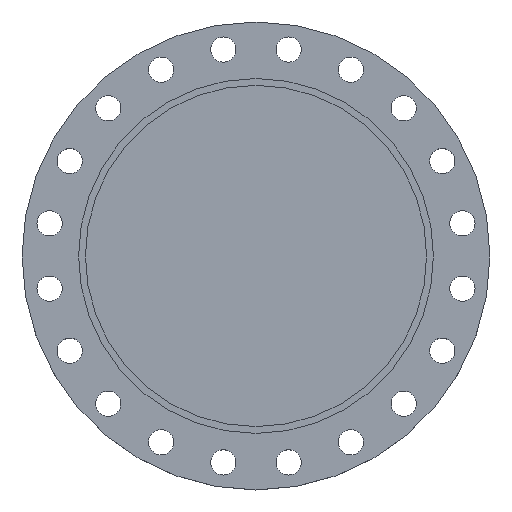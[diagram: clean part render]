
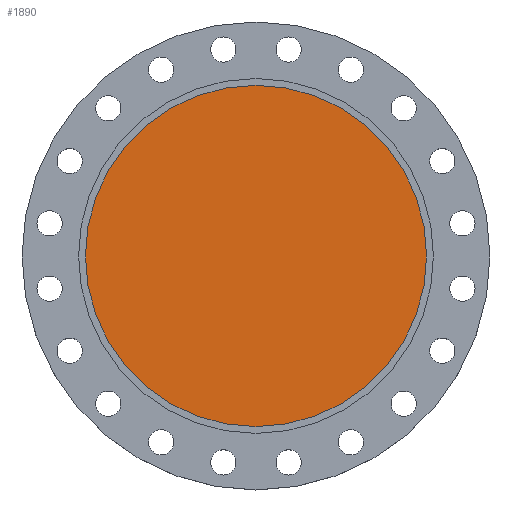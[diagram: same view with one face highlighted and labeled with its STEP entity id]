
A CAD part, top view. The second image highlights one B-rep face of the part: STEP entity #1890.
In plain terms, the highlighted planar face has unit normal (0, 0, 1).
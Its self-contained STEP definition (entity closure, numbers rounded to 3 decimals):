
#40 = DIRECTION ( 'NONE',  ( 1., 0., 0. ) ) ;
#41 = DIRECTION ( 'NONE',  ( 0., 0., 1. ) ) ;
#42 = CARTESIAN_POINT ( 'NONE',  ( 324.5, 0., -5.5 ) ) ;
#44 = PLANE ( 'NONE',  #271 ) ;
#45 = FACE_OUTER_BOUND ( 'NONE', #1248, .T. ) ;
#172 = CIRCLE ( 'NONE', #180, 324.5 ) ;
#180 = AXIS2_PLACEMENT_3D ( 'NONE', #536, #516, #515 ) ;
#262 = CARTESIAN_POINT ( 'NONE',  ( -324.5, 0., -5.5 ) ) ;
#271 = AXIS2_PLACEMENT_3D ( 'NONE', #42, #41, #40 ) ;
#515 = DIRECTION ( 'NONE',  ( -1., 0., 0. ) ) ;
#516 = DIRECTION ( 'NONE',  ( 0., 0., -1. ) ) ;
#536 = CARTESIAN_POINT ( 'NONE',  ( 0., 0., -5.5 ) ) ;
#540 = CARTESIAN_POINT ( 'NONE',  ( 324.5, 0., -5.5 ) ) ;
#771 = DIRECTION ( 'NONE',  ( -1., 0., 0. ) ) ;
#772 = DIRECTION ( 'NONE',  ( 0., 0., -1. ) ) ;
#773 = CARTESIAN_POINT ( 'NONE',  ( 0., 0., -5.5 ) ) ;
#926 = EDGE_CURVE ( 'NONE', #1520, #1648, #1121, .T. ) ;
#1121 = CIRCLE ( 'NONE', #1123, 324.5 ) ;
#1123 = AXIS2_PLACEMENT_3D ( 'NONE', #773, #772, #771 ) ;
#1248 = EDGE_LOOP ( 'NONE', ( #1488, #1487 ) ) ;
#1487 = ORIENTED_EDGE ( 'NONE', *, *, #926, .F. ) ;
#1488 = ORIENTED_EDGE ( 'NONE', *, *, #1553, .F. ) ;
#1520 = VERTEX_POINT ( 'NONE', #540 ) ;
#1553 = EDGE_CURVE ( 'NONE', #1648, #1520, #172, .T. ) ;
#1648 = VERTEX_POINT ( 'NONE', #262 ) ;
#1890 = ADVANCED_FACE ( 'NONE', ( #45 ), #44, .T. ) ;
